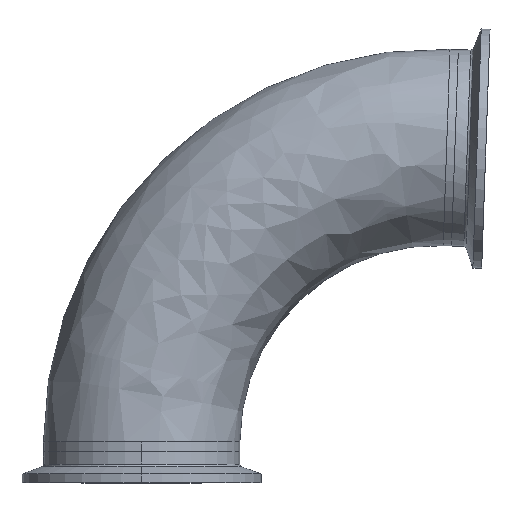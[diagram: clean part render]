
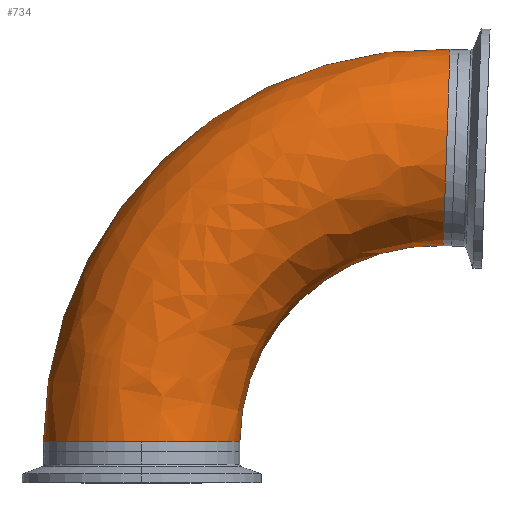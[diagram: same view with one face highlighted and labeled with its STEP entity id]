
A CAD part, top view. The second image highlights one B-rep face of the part: STEP entity #734.
In plain terms, the highlighted free-form (B-spline) face has degree [3, 3] with [4, 4] control points.
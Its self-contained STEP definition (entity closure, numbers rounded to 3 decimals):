
#27 = DIRECTION ( 'NONE',  ( -1., 0., 0. ) ) ;
#92 = VERTEX_POINT ( 'NONE', #1698 ) ;
#228 = CARTESIAN_POINT ( 'NONE',  ( 0., 3.201, 0. ) ) ;
#252 = CIRCLE ( 'NONE', #3332, 31.75 ) ;
#263 = EDGE_CURVE ( 'NONE', #2453, #2429, #2603, .T. ) ;
#299 = AXIS2_PLACEMENT_3D ( 'NONE', #1552, #1367, #1482 ) ;
#304 = CARTESIAN_POINT ( 'NONE',  ( -31.75, 79.671, 0. ) ) ;
#350 = DIRECTION ( 'NONE',  ( -1., 0., 0. ) ) ;
#386 = DIRECTION ( 'NONE',  ( 0., 0., -1. ) ) ;
#409 = CARTESIAN_POINT ( 'NONE',  ( 95.25, 3.201, 0. ) ) ;
#492 = EDGE_CURVE ( 'NONE', #2984, #2453, #2677, .T. ) ;
#606 = ORIENTED_EDGE ( 'NONE', *, *, #492, .T. ) ;
#649 = CARTESIAN_POINT ( 'NONE',  ( -31.75, 3.201, 0. ) ) ;
#734 = ADVANCED_FACE ( 'NONE', ( #762 ), #1088, .T. ) ;
#762 = FACE_OUTER_BOUND ( 'NONE', #2456, .T. ) ;
#786 = CARTESIAN_POINT ( 'NONE',  ( 23.258, 132.792, 0. ) ) ;
#899 = CARTESIAN_POINT ( 'NONE',  ( 99.682, 130.123, 0. ) ) ;
#923 = CARTESIAN_POINT ( 'NONE',  ( -31.75, 3.201, 63.5 ) ) ;
#928 = ORIENTED_EDGE ( 'NONE', *, *, #263, .T. ) ;
#935 = CARTESIAN_POINT ( 'NONE',  ( -31.75, 79.671, 63.5 ) ) ;
#1034 = CARTESIAN_POINT ( 'NONE',  ( 97.466, 66.662, 0. ) ) ;
#1045 = CARTESIAN_POINT ( 'NONE',  ( 99.682, 130.123, 0. ) ) ;
#1088 =( BOUNDED_SURFACE ( )  B_SPLINE_SURFACE ( 3, 3, ( 
 ( #649, #304, #786, #899 ),
 ( #923, #935, #1137, #1239 ),
 ( #1251, #1332, #1369, #1415 ),
 ( #1452, #1496, #1528, #1538 ) ),
 .UNSPECIFIED., .F., .F., .F. ) 
 B_SPLINE_SURFACE_WITH_KNOTS ( ( 4, 4 ),
 ( 4, 4 ),
 ( 0., 1. ),
 ( 0., 1. ),
 .UNSPECIFIED. ) 
 GEOMETRIC_REPRESENTATION_ITEM ( )  RATIONAL_B_SPLINE_SURFACE ( (
 ( 1., 0.796, 0.796, 1.),
 ( 0.333, 0.265, 0.265, 0.333),
 ( 0.333, 0.265, 0.265, 0.333),
 ( 1., 0.796, 0.796, 1.) ) ) 
 REPRESENTATION_ITEM ( '' )  SURFACE ( )  );
#1137 = CARTESIAN_POINT ( 'NONE',  ( 23.258, 132.792, 63.5 ) ) ;
#1157 = DIRECTION ( 'NONE',  ( -1., 0., 0. ) ) ;
#1239 = CARTESIAN_POINT ( 'NONE',  ( 99.682, 130.123, 63.5 ) ) ;
#1251 = CARTESIAN_POINT ( 'NONE',  ( 31.75, 3.201, 63.5 ) ) ;
#1291 = AXIS2_PLACEMENT_3D ( 'NONE', #409, #386, #350 ) ;
#1332 = CARTESIAN_POINT ( 'NONE',  ( 31.75, 41.436, 63.5 ) ) ;
#1367 = DIRECTION ( 'NONE',  ( 0., 1., 0. ) ) ;
#1369 = CARTESIAN_POINT ( 'NONE',  ( 59.254, 67.996, 63.5 ) ) ;
#1415 = CARTESIAN_POINT ( 'NONE',  ( 97.466, 66.662, 63.5 ) ) ;
#1452 = CARTESIAN_POINT ( 'NONE',  ( 31.75, 3.201, 0. ) ) ;
#1482 = DIRECTION ( 'NONE',  ( -1., 0., 0. ) ) ;
#1496 = CARTESIAN_POINT ( 'NONE',  ( 31.75, 41.436, 0. ) ) ;
#1528 = CARTESIAN_POINT ( 'NONE',  ( 59.254, 67.996, 0. ) ) ;
#1538 = CARTESIAN_POINT ( 'NONE',  ( 97.466, 66.662, 0. ) ) ;
#1552 = CARTESIAN_POINT ( 'NONE',  ( 0., 3.201, 0. ) ) ;
#1592 = DIRECTION ( 'NONE',  ( 0., 0., -1. ) ) ;
#1595 = EDGE_CURVE ( 'NONE', #2429, #2199, #1621, .T. ) ;
#1621 = CIRCLE ( 'NONE', #2855, 31.75 ) ;
#1652 = CARTESIAN_POINT ( 'NONE',  ( 0., 3.201, 31.75 ) ) ;
#1698 = CARTESIAN_POINT ( 'NONE',  ( -31.75, 3.201, 0. ) ) ;
#1834 = CIRCLE ( 'NONE', #2423, 127. ) ;
#2029 = EDGE_CURVE ( 'NONE', #92, #2984, #252, .T. ) ;
#2118 = ORIENTED_EDGE ( 'NONE', *, *, #1595, .T. ) ;
#2199 = VERTEX_POINT ( 'NONE', #1045 ) ;
#2306 = CARTESIAN_POINT ( 'NONE',  ( 31.75, 3.201, 0. ) ) ;
#2395 = ORIENTED_EDGE ( 'NONE', *, *, #2029, .T. ) ;
#2423 = AXIS2_PLACEMENT_3D ( 'NONE', #3104, #1592, #27 ) ;
#2429 = VERTEX_POINT ( 'NONE', #1034 ) ;
#2453 = VERTEX_POINT ( 'NONE', #2306 ) ;
#2456 = EDGE_LOOP ( 'NONE', ( #606, #928, #2118, #3057, #2395 ) ) ;
#2523 = DIRECTION ( 'NONE',  ( 0., 1., 0. ) ) ;
#2584 = DIRECTION ( 'NONE',  ( 0.035, 0.999, 0. ) ) ;
#2603 = CIRCLE ( 'NONE', #1291, 63.5 ) ;
#2677 = CIRCLE ( 'NONE', #299, 31.75 ) ;
#2732 = CARTESIAN_POINT ( 'NONE',  ( 98.574, 98.393, 0. ) ) ;
#2747 = DIRECTION ( 'NONE',  ( -0.999, 0.035, 0. ) ) ;
#2855 = AXIS2_PLACEMENT_3D ( 'NONE', #2732, #2747, #2584 ) ;
#2881 = EDGE_CURVE ( 'NONE', #92, #2199, #1834, .T. ) ;
#2984 = VERTEX_POINT ( 'NONE', #1652 ) ;
#3057 = ORIENTED_EDGE ( 'NONE', *, *, #2881, .F. ) ;
#3104 = CARTESIAN_POINT ( 'NONE',  ( 95.25, 3.201, 0. ) ) ;
#3332 = AXIS2_PLACEMENT_3D ( 'NONE', #228, #2523, #1157 ) ;
